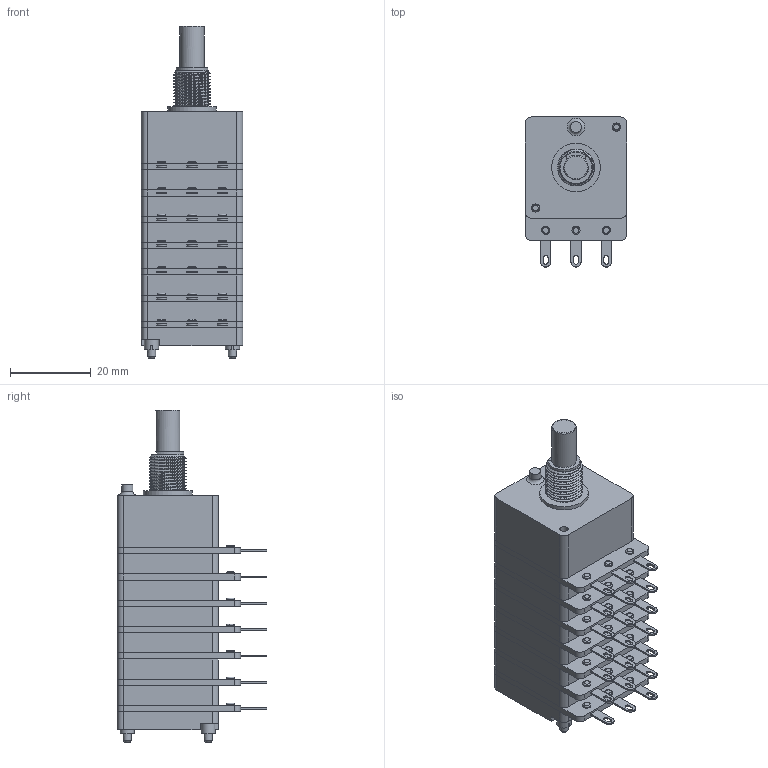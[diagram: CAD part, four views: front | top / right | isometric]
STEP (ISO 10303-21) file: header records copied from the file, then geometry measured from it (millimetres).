
FILE_DESCRIPTION(('FreeCAD Model'),'2;1');
FILE_NAME('Open CASCADE Shape Model','2023-03-22T08:33:40',(''),(''), 'Open CASCADE STEP processor 7.6','FreeCAD','Unknown');
FILE_SCHEMA(('AUTOMOTIVE_DESIGN { 1 0 10303 214 1 1 1 1 }'));
Length unit declared in the file: millimetre
Products named in the file (1): Fusion032
Bounding box: 25 x 37 x 82 mm (x, y, z)
Volume: 38258.4 mm3; surface area: 12328.4 mm2
Topology: 1 solids, 36 shells, 685 faces, 1487 edges, 934 vertices
Faces by surface type: plane 355, cylinder 263, bspline 38, torus 23, cone 6
Full cylindrical faces by diameter (mm): 1.9 x2, 2 x53, 2.2 x26, 2.8 x1, 3.5 x2, 4.5 x7, 5.4 x1, 6 x1, 6.05 x1, 8 x1, 9.09 x11, 12 x1
Entity records: 48639 total; most frequent: CARTESIAN_POINT 16966, DIRECTION 5378, ORIENTED_EDGE 2972, PCURVE 2972, DEFINITIONAL_REPRESENTATION 2972, LINE 2704, VECTOR 2704, EDGE_CURVE 1486
